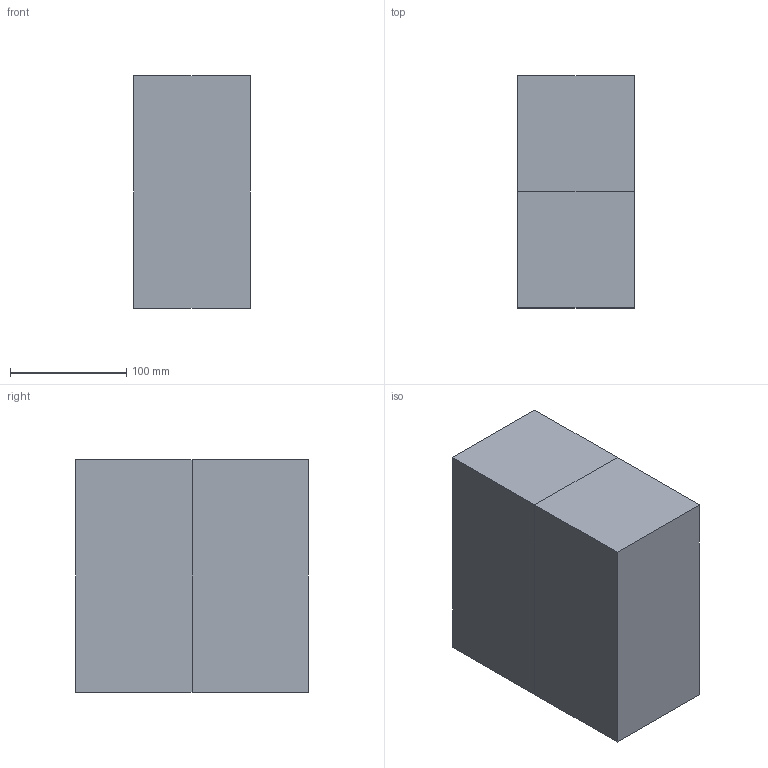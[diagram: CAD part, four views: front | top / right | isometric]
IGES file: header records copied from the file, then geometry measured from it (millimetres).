
Global section: file name: B_Ex_10_0; native system: AutoCAD 2016 - Español (Spanish),; preprocessor: Autodesk Translation Framework DWG producer (atf_dwg_producer); organization: unknown; date: 20200607.232908; units: millimetre
Bounding box: 100 x 200 x 200 mm (x, y, z)
Volume: 4000000 mm3; surface area: 260000 mm2
Topology: 2 solids, 2 shells, 17 faces, 44 edges, 36 vertices
Faces by surface type: bspline 17
